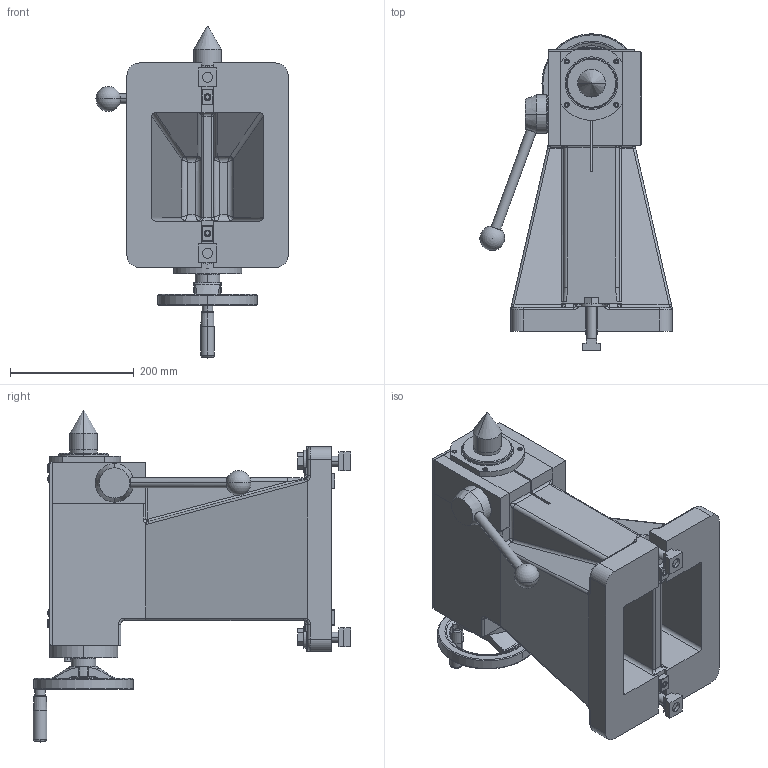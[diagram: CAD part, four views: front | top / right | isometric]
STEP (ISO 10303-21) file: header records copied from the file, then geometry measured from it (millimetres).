
FILE_DESCRIPTION (( 'STEP AP214' ), '1' );
FILE_NAME ('TS630RN.STEP', '2020-03-17T07:24:14', ( '' ), ( '' ), 'SwSTEP 2.0', 'SolidWorks 2017', '' );
FILE_SCHEMA (( 'AUTOMOTIVE_DESIGN' ));
Length unit declared in the file: millimetre
Products named in the file (14): 僴儞僪儂僀乕儖S160(61E4360451)TS630R; ベアリングキャップ(61E4360403)TS630R; カバー(61E4510291)TS630RN; クランププレートB(61E4360431)TS630R; クランププレートA(61E4360421)TS630R; ガイドブロック(61M4197783); ボデー(61E2474401)TS630RN; TS630RN; CLAMPING PARTS(61E4365591)結合; TS630RNホンタイ; クランプレバー(61E3448290)TS630R; ネームプレート(61E4736691); センタソケット(61E3448265)TS630R; シールホルダ(61E4360461)TS630R
Assembly tree (15 placements, depth 3):
  TS630RN
    TS630RNホンタイ
      ボデー(61E2474401)TS630RN
      ガイドブロック(61M4197783)  x2
      クランププレートA(61E4360421)TS630R
      クランププレートB(61E4360431)TS630R
      カバー(61E4510291)TS630RN
      ベアリングキャップ(61E4360403)TS630R
      僴儞僪儂僀乕儖S160(61E4360451)TS630R
      シールホルダ(61E4360461)TS630R
      センタソケット(61E3448265)TS630R
      ネームプレート(61E4736691)
      クランプレバー(61E3448290)TS630R
    CLAMPING PARTS(61E4365591)結合  x2
Bounding box: 310.14 x 512 x 535.7 mm (x, y, z)
Volume: 15085312 mm3; surface area: 1268690.8 mm2
Topology: 14 solids, 14 shells, 2185 faces, 5952 edges, 3875 vertices
Faces by surface type: plane 1722, cylinder 264, bspline 96, cone 62, torus 36, sphere 5
Entity records: 73918 total; most frequent: CARTESIAN_POINT 16750, ORIENTED_EDGE 11510, DIRECTION 10191, EDGE_CURVE 5755, LINE 4877, VECTOR 4877, VERTEX_POINT 3774, AXIS2_PLACEMENT_3D 2657
